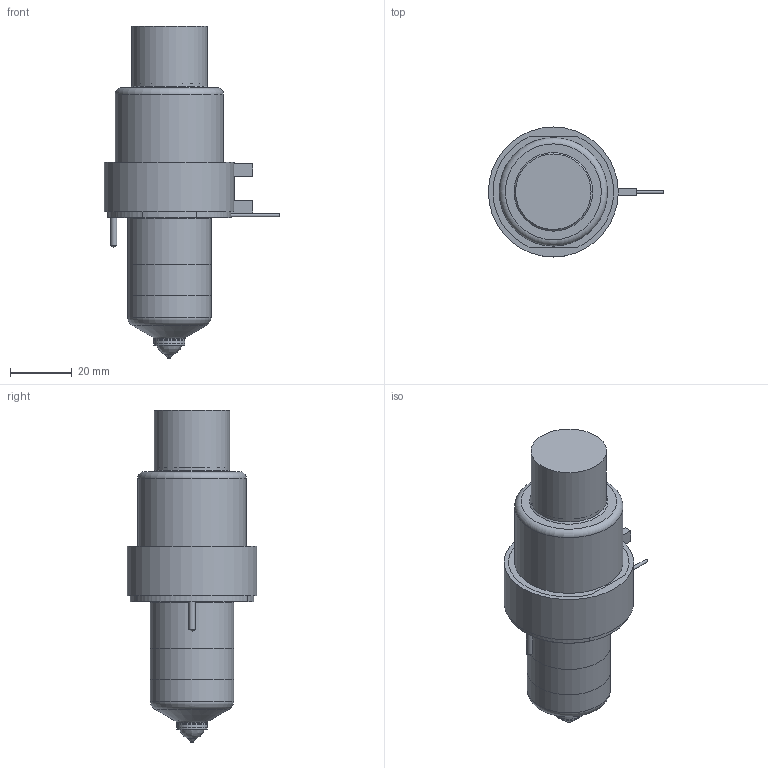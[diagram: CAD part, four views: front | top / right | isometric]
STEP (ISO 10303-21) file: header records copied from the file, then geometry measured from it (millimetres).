
FILE_DESCRIPTION(/* description */ (''),/* implementation_level */ '2;1');
FILE_NAME(/* name */ 'SXOT13045_200C_b',/* time_stamp */ '2007-01-24T17:14:55+13:00',/* author */ (''),/* organization */ (''),/* preprocessor_version */ 'ST-DEVELOPER v9',/* originating_system */ 'UGS - NX 4.0',/* authorisation */ '');
FILE_SCHEMA (('CONFIG_CONTROL_DESIGN'));
Length unit declared in the file: millimetre
Products named in the file (1): SXOT13045_200C_b
Bounding box: 56.65 x 42 x 107.32 mm (x, y, z)
Volume: 138012.9 mm3; surface area: 25469.4 mm2
Topology: 7 solids, 7 shells, 100 faces, 195 edges, 124 vertices
Faces by surface type: plane 46, cylinder 30, cone 11, torus 10, bspline 3
Full cylindrical faces by diameter (mm): 0.9 x1, 1 x3, 2 x2, 6 x1, 6.4 x1, 6.5 x1, 9.61 x1, 10.01 x2, 12.6 x1, 22.2 x1, 24 x1, 24.4 x1, 27 x2, 31.8 x1, 35 x1, 40 x1, 42 x1
Entity records: 2456 total; most frequent: CARTESIAN_POINT 516, DIRECTION 410, ORIENTED_EDGE 284, AXIS2_PLACEMENT_3D 180, EDGE_LOOP 158, EDGE_CURVE 142, VERTEX_POINT 115, ADVANCED_FACE 100
